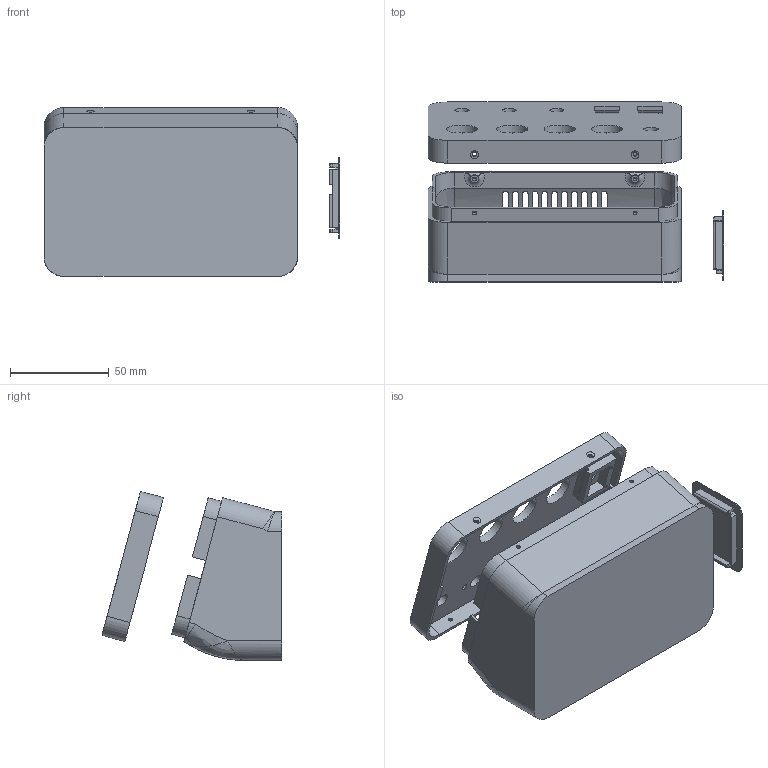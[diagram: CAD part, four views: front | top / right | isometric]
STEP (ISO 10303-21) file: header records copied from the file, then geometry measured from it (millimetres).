
FILE_DESCRIPTION(/* description */ (''),/* implementation_level */ '2;1');
FILE_NAME(/* name */ 'Boitier avant avec PCB.step',/* time_stamp */ '2026-10-05T09:26:18+02:00',/* author */ (''),/* organization */ (''),/* preprocessor_version */ 'ST-DEVELOPER v20.1',/* originating_system */ 'Autodesk Translation Framework v15.8.0.0',/* authorisation */ '');
FILE_SCHEMA (('AUTOMOTIVE_DESIGN { 1 0 10303 214 3 1 1 }'));
Length unit declared in the file: millimetre
Products named in the file (1): Boitier avant avec PCB
Bounding box: 149.86 x 91.19 x 85.57 mm (x, y, z)
Volume: 123693.5 mm3; surface area: 85254 mm2
Topology: 3 solids, 3 shells, 328 faces, 883 edges, 570 vertices
Faces by surface type: plane 190, cylinder 109, bspline 23, torus 4, cone 2
Full cylindrical faces by diameter (mm): 1.5 x6, 2 x8, 2.5 x5, 3 x3, 3.5 x4, 7.1 x3, 7.5 x1, 16 x4
Entity records: 12236 total; most frequent: CARTESIAN_POINT 3869, ORIENTED_EDGE 1758, DIRECTION 1669, EDGE_CURVE 879, VERTEX_POINT 570, LINE 567, VECTOR 567, AXIS2_PLACEMENT_3D 551
